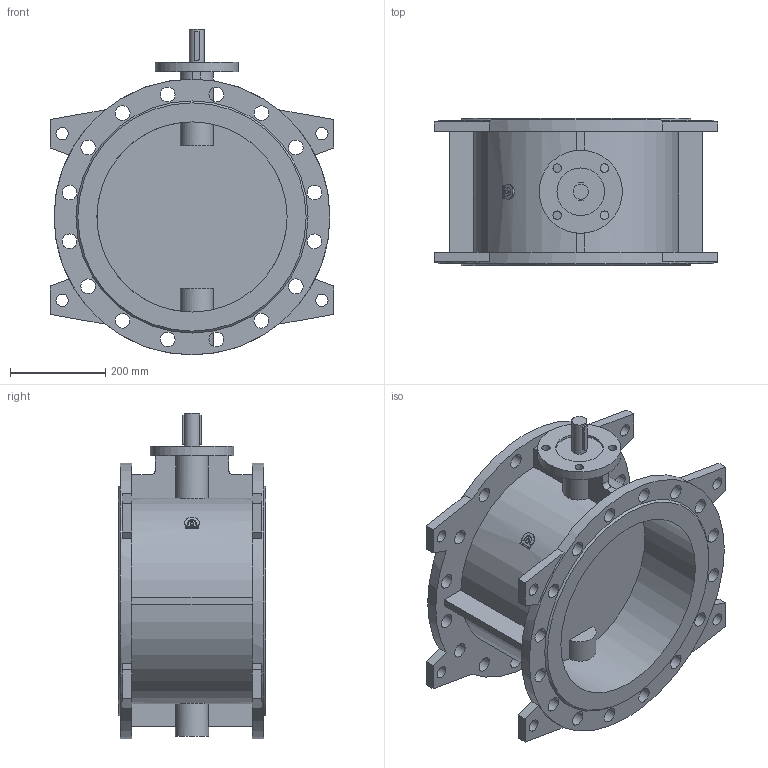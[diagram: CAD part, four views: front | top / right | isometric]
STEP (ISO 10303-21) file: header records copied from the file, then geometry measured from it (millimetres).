
FILE_DESCRIPTION(('STEP AP203'), '1');
FILE_NAME('Çàòâîð 023F.Z DN400 PN16 ïîä èñïîëíèòåëüíûé ìåõàíèçì', '', ('UNSPECIFIED'), ('UNSPECIFIED'), 'ASCON STEP Converter 1.6', 'ASCON Math Kernel', '');
FILE_SCHEMA(('CONFIG_CONTROL_DESIGN'));
Length unit declared in the file: millimetre
Bounding box: 596 x 310 x 685 mm (x, y, z)
Volume: 19642263.8 mm3; surface area: 1856087 mm2
Topology: 1 solids, 1 shells, 158 faces, 429 edges, 286 vertices
Faces by surface type: plane 85, cylinder 71, cone 2
Full cylindrical faces by diameter (mm): 18 x4, 26 x8, 31 x32, 32 x1, 70 x1, 100 x1, 175 x1, 400 x2, 580 x2
Entity records: 7294 total; most frequent: CARTESIAN_POINT 1918, DIRECTION 830, ORIENTED_EDGE 748, EDGE_CURVE 374, AXIS2_PLACEMENT_3D 316, EDGE_LOOP 314, VERTEX_POINT 286, FACE_BOUND 210
